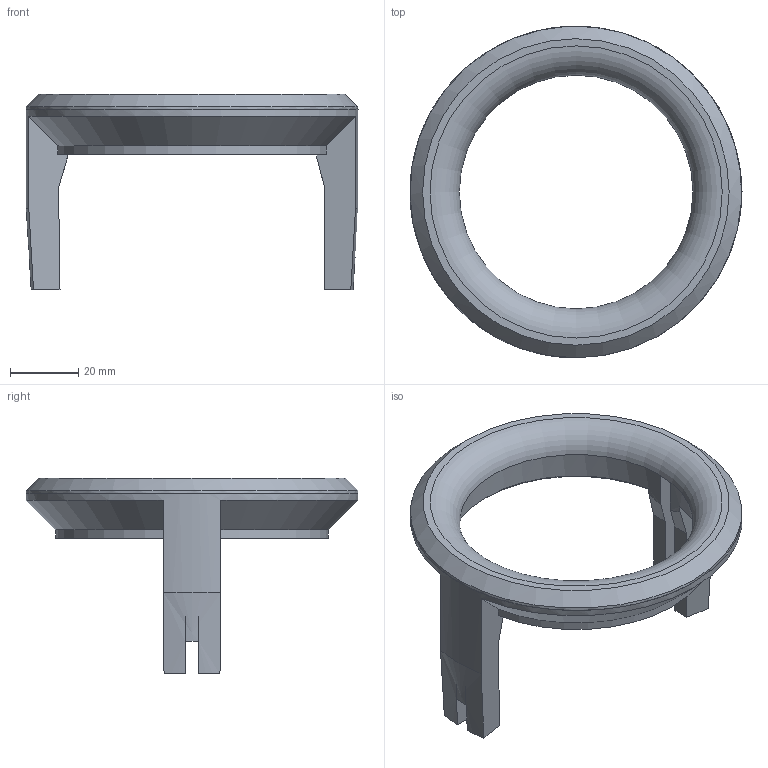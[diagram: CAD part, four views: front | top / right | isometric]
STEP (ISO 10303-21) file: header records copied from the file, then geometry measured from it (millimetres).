
FILE_DESCRIPTION(/* description */ (''),/* implementation_level */ '2;1');
FILE_NAME(/* name */ 'F:/F-Shared-Ryzen7 - PROD/F-OWL-PLANES/BAE Hawk T1 70mm EDF/OWLplane OWL BAE Hawk T1 70mm EDF v1.0/OWL BAE Hawk T1 70mm - SUPPORT/EDF-BRACKET-70mm/STEP/EDF-70 QX-Motor- Bracket.step',/* time_stamp */ '2022-07-11T17:42:19+07:00',/* author */ (''),/* organization */ (''),/* preprocessor_version */ 'ST-DEVELOPER v19',/* originating_system */ 'Autodesk Translation Framework v11.7.0.108',/* authorisation */ '');
FILE_SCHEMA (('AUTOMOTIVE_DESIGN { 1 0 10303 214 3 1 1 }'));
Length unit declared in the file: millimetre
Products named in the file (1): EDF-70 QX-Motor- Bracket
Bounding box: 97.56 x 97.48 x 57.56 mm (x, y, z)
Volume: 46804.6 mm3; surface area: 19594.7 mm2
Topology: 1 solids, 1 shells, 42 faces, 118 edges, 78 vertices
Faces by surface type: plane 26, cylinder 8, cone 7, torus 1
Full cylindrical faces by diameter (mm): 97.48 x2
Entity records: 1398 total; most frequent: CARTESIAN_POINT 247, DIRECTION 239, ORIENTED_EDGE 236, EDGE_CURVE 118, AXIS2_PLACEMENT_3D 82, VERTEX_POINT 78, LINE 75, VECTOR 75
